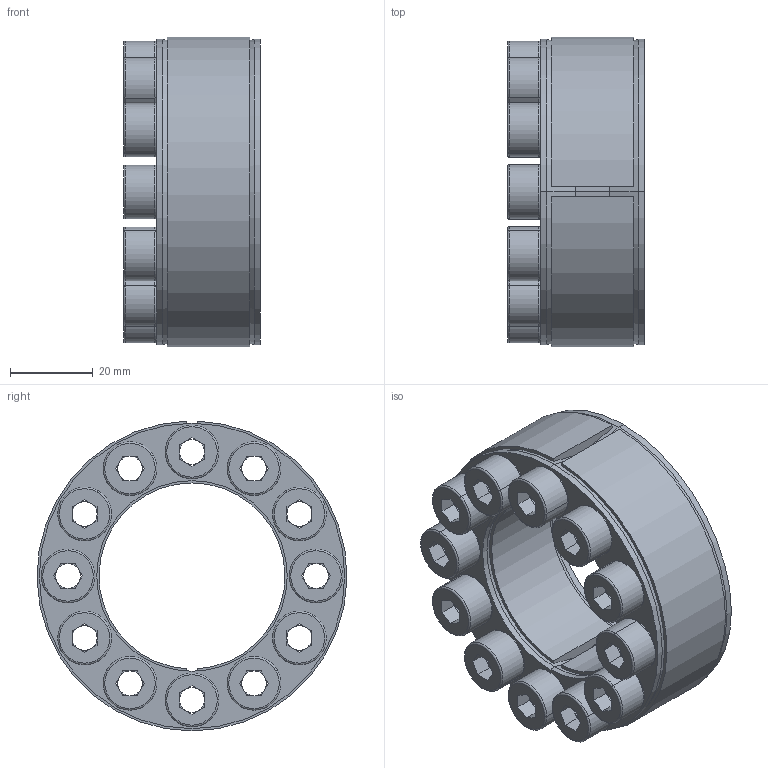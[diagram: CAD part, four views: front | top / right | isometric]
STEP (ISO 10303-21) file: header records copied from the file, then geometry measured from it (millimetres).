
FILE_DESCRIPTION (( 'STEP AP203' ), '1' );
FILE_NAME ('D1-45-75 Assy.STEP', '2017-10-11T03:22:27', ( 'MYCOM' ), ( '' ), 'SwSTEP 2.0', 'SolidWorks 2015', '' );
FILE_SCHEMA (( 'CONFIG_CONTROL_DESIGN' ));
Length unit declared in the file: millimetre
Products named in the file (1): D1-45-75 Assy
Bounding box: 33.14 x 74.99 x 74.98 mm (x, y, z)
Surface area: 32052.1 mm2 (no closed solid volume)
Topology: 0 solids, 16 shells, 289 faces, 774 edges, 484 vertices
Faces by surface type: plane 149, cylinder 83, torus 48, cone 9
Entity records: 9162 total; most frequent: DIRECTION 1715, CARTESIAN_POINT 1602, ORIENTED_EDGE 1379, EDGE_CURVE 774, AXIS2_PLACEMENT_3D 661, VERTEX_POINT 484, LINE 393, VECTOR 393
